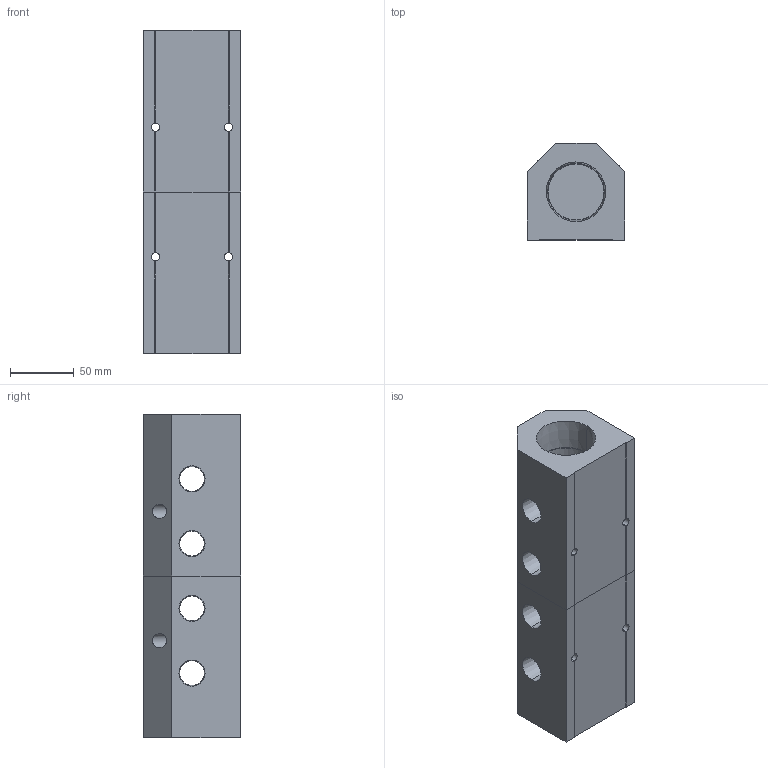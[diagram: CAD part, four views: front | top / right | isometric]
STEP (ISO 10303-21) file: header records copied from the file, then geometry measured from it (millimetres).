
FILE_DESCRIPTION (( 'STEP AP214' ), '1' );
FILE_NAME ('ALM4ACE-N8N24-254RB.step', '2022-02-07T09:39:33', ( '' ), ( '' ), 'SwSTEP 2.0', 'SolidWorks 2020', '' );
FILE_SCHEMA (( 'AUTOMOTIVE_DESIGN' ));
Length unit declared in the file: millimetre
Products named in the file (1): ALM4ACE-N8N24-254RB
Bounding box: 76.2 x 76.2 x 254 mm (x, y, z)
Volume: 879822.4 mm3; surface area: 137710 mm2
Topology: 2 solids, 2 shells, 375 faces, 996 edges, 656 vertices
Faces by surface type: plane 263, bspline 64, cone 28, cylinder 20
Entity records: 20218 total; most frequent: CARTESIAN_POINT 7752, ORIENTED_EDGE 1992, DIRECTION 1516, EDGE_CURVE 996, LINE 764, VECTOR 764, VERTEX_POINT 656, EDGE_LOOP 438
